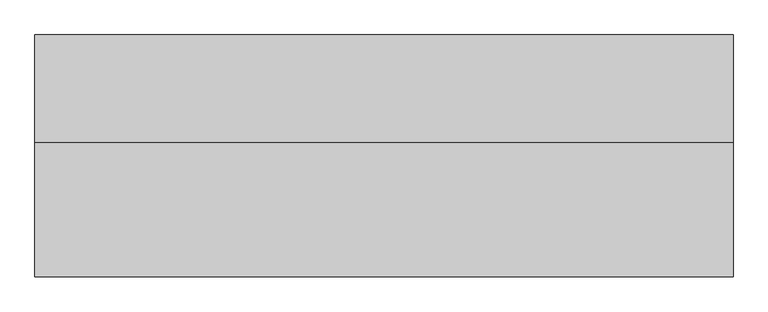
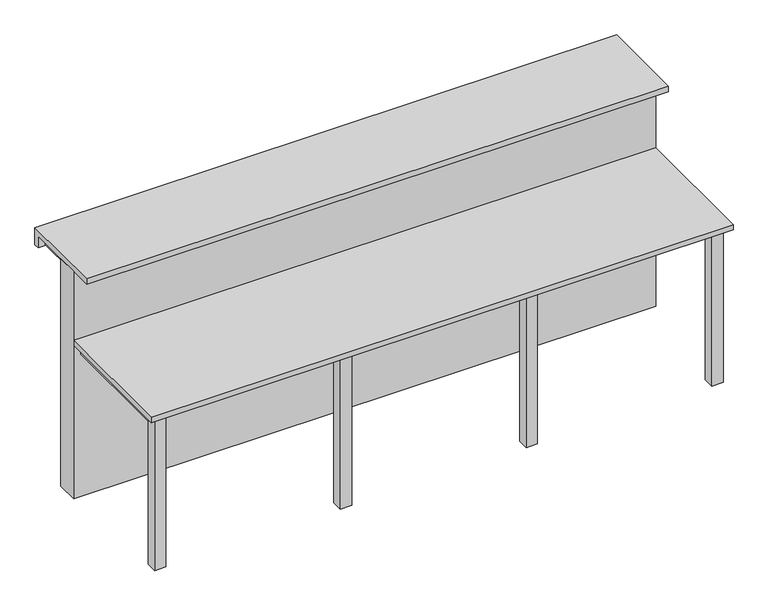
"""IFC4 building model written with IfcOpenShell, lengths in millimetres: furniture geometry, ARQ-MB-IN-YesoMad-Me5 : ARQ-MB-IN-YesoMad-Me5."""

import ifcopenshell
import ifcopenshell.guid

model = None  # the IFC model being written
_history = None  # IfcOwnerHistory: only IFC2X3 demands one
_inside = {}  # id of a spatial element -> (the spatial element, [elements in it])
_under = {}  # id of a project, library or spatial element -> (it, [spatial elements below it])
_declared = {}  # id of a project -> (the project, [libraries it declares])
_typed = {}  # id of a type object -> (the type object, [elements of that type])
_made_of = {}  # id of a material, layer set ... -> (it, [elements and type objects made of it])


def new_model(schema):
    """Start an empty IFC model of exactly this schema.

    Asked for "IFC4X3", IfcOpenShell would pick the latest addendum, in which some entities
    have other attributes; the version numbers below select the first issue.
    IFC2X3 requires an IfcOwnerHistory on every rooted entity: one is made here for all.
    """
    global model, _history
    if schema == "IFC4X3":
        model = ifcopenshell.file(schema_version=(4, 3, 0, 0))
    else:
        model = ifcopenshell.file(schema=schema)
    _inside.clear()
    _under.clear()
    _declared.clear()
    _typed.clear()
    _made_of.clear()
    _history = None
    if model.schema == "IFC2X3":
        org = make("IfcOrganization", Name="unknown")
        user = make(
            "IfcPersonAndOrganization",
            ThePerson=make("IfcPerson", FamilyName="unknown"),
            TheOrganization=org,
        )
        app = make(
            "IfcApplication",
            ApplicationDeveloper=org,
            Version="unknown",
            ApplicationFullName="unknown",
            ApplicationIdentifier="unknown",
        )
        _history = make(
            "IfcOwnerHistory",
            OwningUser=user,
            OwningApplication=app,
            ChangeAction="ADDED",
            CreationDate=0,
        )
    return model


def make(cls, **values):
    """One entity of the class cls with the attributes given. An attribute that is None is left unset."""
    return model.create_entity(
        cls, **{name: value for name, value in values.items() if value is not None}
    )


def rooted(cls, **values):
    """An entity with a GlobalId (a new one), such as an element, a storey or a relation."""
    return make(cls, GlobalId=ifcopenshell.guid.new(), OwnerHistory=_history, **values)


def si_unit(unit_type, name, prefix=None):
    """IfcSIUnit, for example si_unit("LENGTHUNIT", "METRE", prefix="MILLI")."""
    return make("IfcSIUnit", UnitType=unit_type, Prefix=prefix, Name=name)


def assignment(units):
    """IfcUnitAssignment: the units of a project."""
    return None if units is None else make("IfcUnitAssignment", Units=units)


def point(xyz):
    """IfcCartesianPoint."""
    return None if xyz is None else make("IfcCartesianPoint", Coordinates=xyz)


def direction(xyz):
    """IfcDirection."""
    return None if xyz is None else make("IfcDirection", DirectionRatios=xyz)


def frame(location, z_axis=None, x_axis=None):
    """IfcAxis2Placement3D, a coordinate frame: its origin and axes. An axis left out is left unset."""
    return make(
        "IfcAxis2Placement3D",
        Location=point(location),
        Axis=direction(z_axis),
        RefDirection=direction(x_axis),
    )


def origin():
    """The frame at (0, 0, 0) with its axes left unset."""
    return frame((0.0, 0.0, 0.0))


def origin_with_axes():
    """The frame at (0, 0, 0) with the z axis (0, 0, 1) and the x axis (1, 0, 0) written out."""
    return frame((0.0, 0.0, 0.0), z_axis=(0.0, 0.0, 1.0), x_axis=(1.0, 0.0, 0.0))


def place(relative_to, where):
    """IfcLocalPlacement: puts the frame where relative to a parent placement (None: the world)."""
    return make(
        "IfcLocalPlacement", PlacementRelTo=relative_to, RelativePlacement=where
    )


def context(
    kind, dimensions, precision=None, world=None, true_north=None, identifier=None
):
    """IfcGeometricRepresentationContext, for example the 3D "Model" context."""
    return make(
        "IfcGeometricRepresentationContext",
        ContextIdentifier=identifier,
        ContextType=kind,
        CoordinateSpaceDimension=dimensions,
        Precision=precision,
        WorldCoordinateSystem=world,
        TrueNorth=true_north,
    )


def project(units=None, contexts=None):
    """IfcProject with its units and contexts."""
    return rooted(
        "IfcProject",
        Name="project",
        RepresentationContexts=contexts,
        UnitsInContext=assignment(units),
    )


def spatial(cls, under=None, at=None, **own):
    """A site, building, storey or space (cls), placed at a placement, below another one or the project."""
    s = rooted(cls, ObjectPlacement=at, **own)
    if under is not None:
        _under.setdefault(under.id(), (under, []))[1].append(s)
    return s


def polyline(points):
    """IfcPolyline through the points."""
    return make("IfcPolyline", Points=[point(p) for p in points])


def outline(outer, holes=None, kind="AREA"):
    """IfcArbitraryClosedProfileDef: a profile drawn as a closed curve; with holes, ...WithVoids."""
    if holes is None:
        return make("IfcArbitraryClosedProfileDef", ProfileType=kind, OuterCurve=outer)
    return make(
        "IfcArbitraryProfileDefWithVoids",
        ProfileType=kind,
        OuterCurve=outer,
        InnerCurves=holes,
    )


def extrude(swept, where, along, depth):
    """IfcExtrudedAreaSolid: the profile swept, set in the frame where, extruded along a direction by depth."""
    return make(
        "IfcExtrudedAreaSolid",
        SweptArea=swept,
        Position=where,
        ExtrudedDirection=direction(along),
        Depth=depth,
    )


def shape(context_of_items, identifier, shape_type, items):
    """IfcShapeRepresentation: the items that make up one representation, for example the "Body"."""
    return make(
        "IfcShapeRepresentation",
        ContextOfItems=context_of_items,
        RepresentationIdentifier=identifier,
        RepresentationType=shape_type,
        Items=items,
    )


def source(mapping_origin, context_of_items, identifier, shape_type, items):
    """IfcRepresentationMap: a shape defined once, which mapped items show again and again."""
    return make(
        "IfcRepresentationMap",
        MappingOrigin=mapping_origin,
        MappedRepresentation=shape(context_of_items, identifier, shape_type, items),
    )


def transform(
    local_origin,
    x_axis=None,
    y_axis=None,
    z_axis=None,
    scale=None,
    scale2=None,
    scale3=None,
    uniform=True,
):
    """IfcCartesianTransformationOperator3D, or its non-uniform kind. x_axis, y_axis, z_axis: its Axis1, 2, 3."""
    if uniform:
        return make(
            "IfcCartesianTransformationOperator3D",
            Axis1=direction(x_axis),
            Axis2=direction(y_axis),
            LocalOrigin=point(local_origin),
            Scale=scale,
            Axis3=direction(z_axis),
        )
    return make(
        "IfcCartesianTransformationOperator3DnonUniform",
        Axis1=direction(x_axis),
        Axis2=direction(y_axis),
        LocalOrigin=point(local_origin),
        Scale=scale,
        Axis3=direction(z_axis),
        Scale2=scale2,
        Scale3=scale3,
    )


def mapped(mapping_source, mapping_target):
    """IfcMappedItem: shows the shape of a source again, moved by a transform."""
    return make(
        "IfcMappedItem", MappingSource=mapping_source, MappingTarget=mapping_target
    )


def made_of(thing, what):
    """Note that an element or type object is made of a material, layer set ...; save() writes the relation."""
    if what is not None:
        _made_of.setdefault(what.id(), (what, []))[1].append(thing)
    return thing


def element(
    cls,
    number,
    at=None,
    inside=None,
    cuts=None,
    type_object=None,
    material=None,
    context=None,
    identifier="Body",
    shape_type=None,
    held_by="IfcProductDefinitionShape",
    body=None,
    shapes=None,
    **own,
):
    """One element of the class cls, such as IfcWall. Its Tag is "e" and its number.

    at: its placement. inside: the storey or other place that contains it. cuts: it is an
    opening in that element (IfcRelVoidsElement). A single representation is given by context,
    identifier, shape_type and body (its items); several are given by shapes. held_by: the class
    of the entity that holds the representations. save() writes the other relations.
    """
    e = rooted(cls, Tag="e%d" % number, ObjectPlacement=at, **own)
    if body is not None:
        shapes = [shape(context, identifier, shape_type, body)]
    if shapes is not None:
        e.Representation = make(held_by, Representations=shapes)
    if inside is not None:
        _inside.setdefault(inside.id(), (inside, []))[1].append(e)
    if cuts is not None:
        rooted(
            "IfcRelVoidsElement", RelatingBuildingElement=cuts, RelatedOpeningElement=e
        )
    if type_object is not None:
        _typed.setdefault(type_object.id(), (type_object, []))[1].append(e)
    return made_of(e, material)


def aggregate(whole, parts):
    """IfcRelAggregates: a whole, such as a stair, and the parts it consists of."""
    return rooted("IfcRelAggregates", RelatingObject=whole, RelatedObjects=parts)


def save(model, path):
    """Write the relations noted so far, then the file.

    IfcRelAggregates (storeys below a building ...), IfcRelContainedInSpatialStructure (elements
    in a storey), IfcRelDefinesByType, IfcRelAssociatesMaterial and IfcRelDeclares: one each for
    every whole, place, type object, material and project.
    """
    for whole, parts in _under.values():
        aggregate(whole, parts)
    for where, things in _inside.values():
        rooted(
            "IfcRelContainedInSpatialStructure",
            RelatedElements=things,
            RelatingStructure=where,
        )
    for kind, things in _typed.values():
        rooted("IfcRelDefinesByType", RelatedObjects=things, RelatingType=kind)
    for what, things in _made_of.values():
        rooted("IfcRelAssociatesMaterial", RelatedObjects=things, RelatingMaterial=what)
    for by, libraries in _declared.values():
        rooted("IfcRelDeclares", RelatingContext=by, RelatedDefinitions=libraries)
    model.write(path)


def furniture_309767dc(model_context):
    return source(origin(), model_context, "Body", "SweptSolid", [
        extrude(outline(polyline([(1264.7003264, -220.0), (1264.7003264, -25.0), (1314.7003264, -25.0), (1314.7003264, -220.0), (1264.7003264, -220.0)])), frame((0.0, 0.0, 1025.0), z_axis=(0.0, 0.0, 1.0), x_axis=(1.0, 0.0, 0.0)), (0.0, 0.0, 1.0), 50.0),
        extrude(outline(polyline([(434.7003264, -220.0), (434.7003264, -25.0), (484.7003264, -25.0), (484.7003264, -220.0), (434.7003264, -220.0)])), frame((0.0, 0.0, 1025.0), z_axis=(0.0, 0.0, 1.0), x_axis=(1.0, 0.0, 0.0)), (0.0, 0.0, 1.0), 50.0),
        extrude(outline(polyline([(-395.2996736, -220.0), (-395.2996736, -25.0), (-345.2996736, -25.0), (-345.2996736, -220.0), (-395.2996736, -220.0)])), frame((0.0, 0.0, 1025.0), z_axis=(0.0, 0.0, 1.0), x_axis=(1.0, 0.0, 0.0)), (0.0, 0.0, 1.0), 50.0),
        extrude(outline(polyline([(-1225.2996736, -220.0), (-1225.2996736, -25.0), (-1175.2996736, -25.0), (-1175.2996736, -220.0), (-1225.2996736, -220.0)])), frame((0.0, 0.0, 1025.0), z_axis=(0.0, 0.0, 1.0), x_axis=(1.0, 0.0, 0.0)), (0.0, 0.0, 1.0), 50.0),
        extrude(outline(polyline([(-1255.2996736, -300.0), (-1255.2996736, -200.0), (1344.7003264, -200.0), (1344.7003264, -300.0), (-1255.2996736, -300.0)]), holes=[polyline([(1332.7003264, -212.0), (-1243.2996736, -212.0), (-1243.2996736, -288.0), (1332.7003264, -288.0), (1332.7003264, -212.0)])]), origin_with_axes(), (0.0, 0.0, 1.0), 1075.0),
        extrude(outline(polyline([(484.7003264, -270.0), (484.7003264, -825.0), (434.7003264, -825.0), (434.7003264, -270.0), (484.7003264, -270.0)])), frame((0.0, 0.0, 675.0), z_axis=(0.0, 0.0, 1.0), x_axis=(1.0, 0.0, 0.0)), (0.0, 0.0, 1.0), 50.0),
        extrude(outline(polyline([(1314.7003264, -270.0), (1314.7003264, -825.0), (1264.7003264, -825.0), (1264.7003264, -270.0), (1314.7003264, -270.0)])), frame((0.0, 0.0, 675.0), z_axis=(0.0, 0.0, 1.0), x_axis=(1.0, 0.0, 0.0)), (0.0, 0.0, 1.0), 50.0),
        extrude(outline(polyline([(-345.2996736, -270.0), (-345.2996736, -825.0), (-395.2996736, -825.0), (-395.2996736, -270.0), (-345.2996736, -270.0)])), frame((0.0, 0.0, 675.0), z_axis=(0.0, 0.0, 1.0), x_axis=(1.0, 0.0, 0.0)), (0.0, 0.0, 1.0), 50.0),
        extrude(outline(polyline([(-1175.2996736, -270.0), (-1175.2996736, -825.0), (-1225.2996736, -825.0), (-1225.2996736, -270.0), (-1175.2996736, -270.0)])), frame((0.0, 0.0, 675.0), z_axis=(0.0, 0.0, 1.0), x_axis=(1.0, 0.0, 0.0)), (0.0, 0.0, 1.0), 50.0),
        extrude(outline(polyline([(1314.7003264, -825.0), (1314.7003264, -875.0), (1264.7003264, -875.0), (1264.7003264, -825.0), (1314.7003264, -825.0)]), holes=[polyline([(1309.7003264, -830.0), (1269.7003264, -830.0), (1269.7003264, -870.0), (1309.7003264, -870.0), (1309.7003264, -830.0)])]), origin_with_axes(), (0.0, 0.0, 1.0), 725.0),
        extrude(outline(polyline([(-1225.2996736, -825.0), (-1175.2996736, -825.0), (-1175.2996736, -875.0), (-1225.2996736, -875.0), (-1225.2996736, -825.0)]), holes=[polyline([(-1220.2996736, -830.0), (-1220.2996736, -870.0), (-1180.2996736, -870.0), (-1180.2996736, -830.0), (-1220.2996736, -830.0)])]), origin_with_axes(), (0.0, 0.0, 1.0), 725.0),
        extrude(outline(polyline([(-395.2996736, -825.0), (-345.2996736, -825.0), (-345.2996736, -875.0), (-395.2996736, -875.0), (-395.2996736, -825.0)]), holes=[polyline([(-390.2996736, -830.0), (-390.2996736, -870.0), (-350.2996736, -870.0), (-350.2996736, -830.0), (-390.2996736, -830.0)])]), origin_with_axes(), (0.0, 0.0, 1.0), 725.0),
        extrude(outline(polyline([(434.7003264, -825.0), (484.7003264, -825.0), (484.7003264, -875.0), (434.7003264, -875.0), (434.7003264, -825.0)]), holes=[polyline([(439.7003264, -830.0), (439.7003264, -870.0), (479.7003264, -870.0), (479.7003264, -830.0), (439.7003264, -830.0)])]), origin_with_axes(), (0.0, 0.0, 1.0), 725.0),
        extrude(outline(polyline([(1314.7003264, -220.0), (1314.7003264, -270.0), (1264.7003264, -270.0), (1264.7003264, -220.0), (1314.7003264, -220.0)]), holes=[polyline([(1309.7003264, -225.0), (1269.7003264, -225.0), (1269.7003264, -265.0), (1309.7003264, -265.0), (1309.7003264, -225.0)])]), origin_with_axes(), (0.0, 0.0, 1.0), 1075.0),
        extrude(outline(polyline([(-1225.2996736, -220.0), (-1175.2996736, -220.0), (-1175.2996736, -270.0), (-1225.2996736, -270.0), (-1225.2996736, -220.0)]), holes=[polyline([(-1220.2996736, -225.0), (-1220.2996736, -265.0), (-1180.2996736, -265.0), (-1180.2996736, -225.0), (-1220.2996736, -225.0)])]), origin_with_axes(), (0.0, 0.0, 1.0), 1075.0),
        extrude(outline(polyline([(-395.2996736, -220.0), (-345.2996736, -220.0), (-345.2996736, -270.0), (-395.2996736, -270.0), (-395.2996736, -220.0)]), holes=[polyline([(-390.2996736, -225.0), (-390.2996736, -265.0), (-350.2996736, -265.0), (-350.2996736, -225.0), (-390.2996736, -225.0)])]), origin_with_axes(), (0.0, 0.0, 1.0), 1075.0),
        extrude(outline(polyline([(434.7003264, -220.0), (484.7003264, -220.0), (484.7003264, -270.0), (434.7003264, -270.0), (434.7003264, -220.0)]), holes=[polyline([(439.7003264, -225.0), (439.7003264, -265.0), (479.7003264, -265.0), (479.7003264, -225.0), (439.7003264, -225.0)])]), origin_with_axes(), (0.0, 0.0, 1.0), 1075.0),
        extrude(outline(polyline([(0.0, 1100.0), (0.0, 1020.0), (-25.0, 1020.0), (-25.0, 1075.0), (-400.0, 1075.0), (-400.0, 1100.0), (0.0, 1100.0)])), frame((-1255.2996736, 0.0, 0.0), z_axis=(1.0, 0.0, 0.0), x_axis=(0.0, 1.0, 0.0)), (0.0, 0.0, 1.0), 2600.0),
        extrude(outline(polyline([(1344.7003264, -300.0), (1344.7003264, -900.0), (-1255.2996736, -900.0), (-1255.2996736, -300.0), (1344.7003264, -300.0)])), frame((0.0, 0.0, 725.0), z_axis=(0.0, 0.0, 1.0), x_axis=(1.0, 0.0, 0.0)), (0.0, 0.0, 1.0), 25.0),
    ])


if __name__ == "__main__":
    model = new_model("IFC4")
    model_context = context("Model", 3, world=origin())
    ifc_project = project(units=[si_unit("LENGTHUNIT", "METRE", prefix="MILLI")], contexts=[model_context])
    site = spatial("IfcSite", under=ifc_project)
    building = spatial("IfcBuilding", under=site)
    placement = place(None, origin())
    furniture_shape = furniture_309767dc(model_context)
    element("IfcFurniture", 1, ObjectType="ARQ-MB-IN-YesoMad-Me5 : ARQ-MB-IN-YesoMad-Me5", at=placement, inside=building, context=model_context, shape_type="MappedRepresentation", body=[
        mapped(furniture_shape, transform((0.0, 0.0, 0.0), x_axis=(1.0, 0.0, 0.0), y_axis=(0.0, 1.0, 0.0), z_axis=(0.0, 0.0, 1.0))),
    ])
    save(model, "model.ifc")
